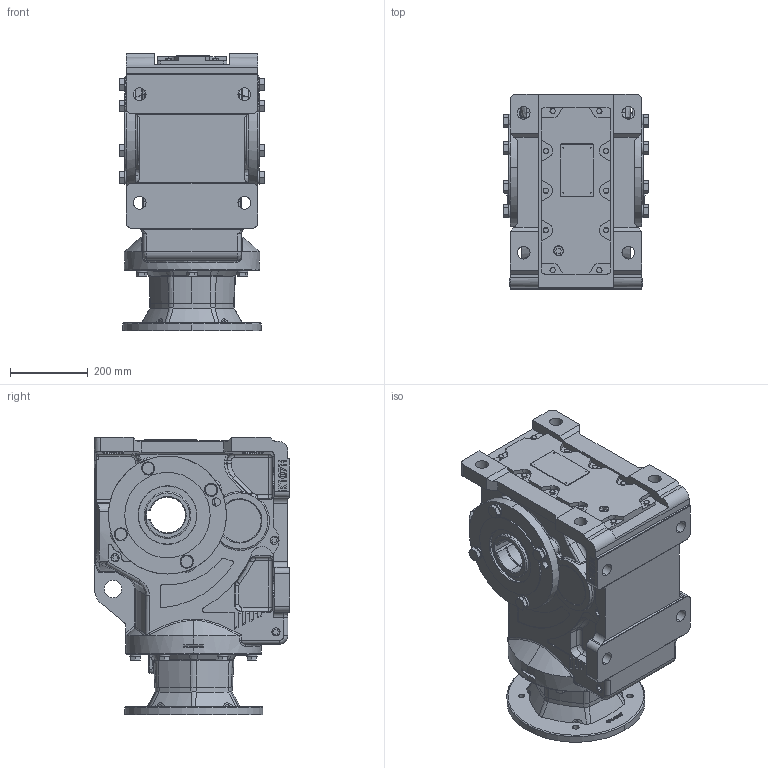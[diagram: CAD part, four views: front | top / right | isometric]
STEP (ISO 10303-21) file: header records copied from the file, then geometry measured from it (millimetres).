
FILE_DESCRIPTION (( 'STEP AP203' ), '1' );
FILE_NAME ('KAN107-324-6TC.STEP', '2023-02-15T07:13:12', ( '' ), ( '' ), 'SwSTEP 2.0', 'SolidWorks 2012', '' );
FILE_SCHEMA (( 'CONFIG_CONTROL_DESIGN' ));
Products named in the file (1): KAN107-324-6TC
Bounding box: 373.2 x 503.5 x 714 mm (x, y, z)
Volume: 72325128.9 mm3; surface area: 2051629.7 mm2
Topology: 1 solids, 51 shells, 2247 faces, 5606 edges, 3513 vertices
Faces by surface type: plane 961, cylinder 605, bspline 379, cone 302
Entity records: 88521 total; most frequent: CARTESIAN_POINT 37276, ORIENTED_EDGE 11080, DIRECTION 10036, EDGE_CURVE 5540, AXIS2_PLACEMENT_3D 3667, VERTEX_POINT 3513, LINE 2702, VECTOR 2702
